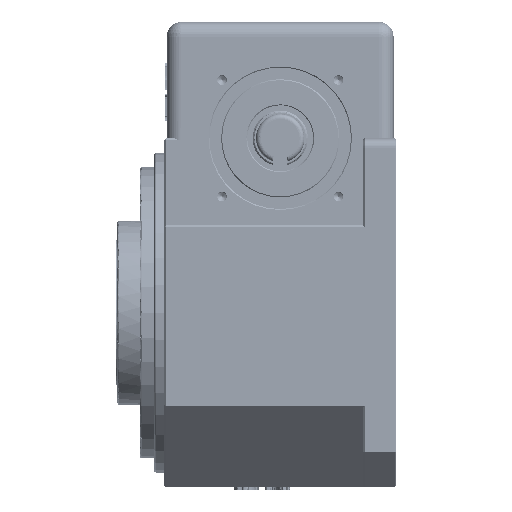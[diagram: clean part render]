
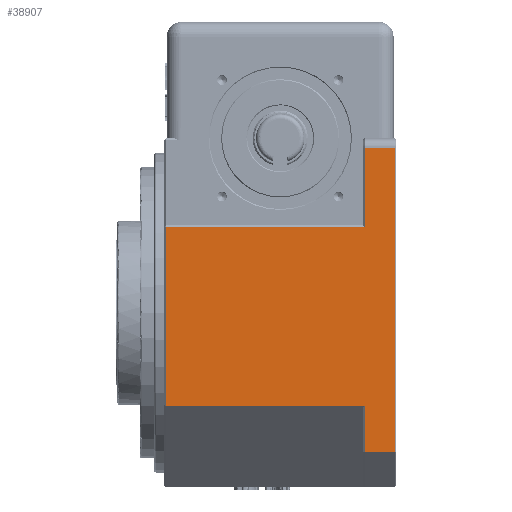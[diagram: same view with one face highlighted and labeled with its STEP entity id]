
A CAD part, left-side view. The second image highlights one B-rep face of the part: STEP entity #38907.
In plain terms, the highlighted planar face has unit normal (-1, 0, 0).
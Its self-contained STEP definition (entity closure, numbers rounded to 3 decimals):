
#120 = CARTESIAN_POINT ( 'NONE',  ( -180., 240., 170. ) ) ;
#4908 = EDGE_CURVE ( 'NONE', #49008, #90645, #31784, .T. ) ;
#9552 = CARTESIAN_POINT ( 'NONE',  ( -180., 238., -96. ) ) ;
#9677 = CARTESIAN_POINT ( 'NONE',  ( -180., 33., 170. ) ) ;
#10310 = LINE ( 'NONE', #9677, #121101 ) ;
#19316 = VERTEX_POINT ( 'NONE', #90777 ) ;
#23511 = CARTESIAN_POINT ( 'NONE',  ( -180., 240., -144. ) ) ;
#24211 = DIRECTION ( 'NONE',  ( 0., 0., 1. ) ) ;
#24481 = EDGE_CURVE ( 'NONE', #19316, #99759, #165315, .T. ) ;
#24828 = ORIENTED_EDGE ( 'NONE', *, *, #84754, .F. ) ;
#31784 = LINE ( 'NONE', #120, #65646 ) ;
#36242 = CARTESIAN_POINT ( 'NONE',  ( -180., 240., -96. ) ) ;
#38737 = CARTESIAN_POINT ( 'NONE',  ( -180., 33., 170. ) ) ;
#38907 = ADVANCED_FACE ( 'NONE', ( #97032 ), #157296, .F. ) ;
#39851 = ORIENTED_EDGE ( 'NONE', *, *, #24481, .T. ) ;
#41863 = VECTOR ( 'NONE', #153433, 1000. ) ;
#43079 = DIRECTION ( 'NONE',  ( 0., -1., 0. ) ) ;
#46243 = VECTOR ( 'NONE', #176679, 1000. ) ;
#46274 = CARTESIAN_POINT ( 'NONE',  ( -180., 2., 170. ) ) ;
#49008 = VERTEX_POINT ( 'NONE', #38737 ) ;
#50557 = EDGE_CURVE ( 'NONE', #69060, #88408, #157194, .T. ) ;
#54777 = CARTESIAN_POINT ( 'NONE',  ( -180., 238., 88. ) ) ;
#56144 = CARTESIAN_POINT ( 'NONE',  ( -180., 240., 170. ) ) ;
#64451 = EDGE_CURVE ( 'NONE', #85601, #69060, #105342, .T. ) ;
#65646 = VECTOR ( 'NONE', #43079, 1000. ) ;
#65780 = CARTESIAN_POINT ( 'NONE',  ( -180., 33., 170. ) ) ;
#68138 = VECTOR ( 'NONE', #89171, 1000. ) ;
#69060 = VERTEX_POINT ( 'NONE', #9552 ) ;
#71415 = VECTOR ( 'NONE', #165720, 1000. ) ;
#75619 = CARTESIAN_POINT ( 'NONE',  ( -180., 240., 88. ) ) ;
#84754 = EDGE_CURVE ( 'NONE', #88408, #115331, #157030, .T. ) ;
#85209 = DIRECTION ( 'NONE',  ( 0., 0., -1. ) ) ;
#85601 = VERTEX_POINT ( 'NONE', #134773 ) ;
#88408 = VERTEX_POINT ( 'NONE', #54777 ) ;
#89171 = DIRECTION ( 'NONE',  ( 0., 0., -1. ) ) ;
#90645 = VERTEX_POINT ( 'NONE', #103334 ) ;
#90777 = CARTESIAN_POINT ( 'NONE',  ( -180., 33., -144. ) ) ;
#92590 = ORIENTED_EDGE ( 'NONE', *, *, #182506, .F. ) ;
#95971 = LINE ( 'NONE', #65780, #177375 ) ;
#97032 = FACE_OUTER_BOUND ( 'NONE', #143795, .T. ) ;
#99759 = VERTEX_POINT ( 'NONE', #145279 ) ;
#103334 = CARTESIAN_POINT ( 'NONE',  ( -180., 2., 170. ) ) ;
#104655 = CARTESIAN_POINT ( 'NONE',  ( -180., 33., 88. ) ) ;
#105342 = LINE ( 'NONE', #36242, #71415 ) ;
#106595 = LINE ( 'NONE', #46274, #68138 ) ;
#109800 = EDGE_CURVE ( 'NONE', #115331, #49008, #95971, .T. ) ;
#115331 = VERTEX_POINT ( 'NONE', #104655 ) ;
#121101 = VECTOR ( 'NONE', #24211, 1000. ) ;
#124563 = DIRECTION ( 'NONE',  ( 0., -1., 0. ) ) ;
#126101 = ORIENTED_EDGE ( 'NONE', *, *, #64451, .F. ) ;
#126306 = ORIENTED_EDGE ( 'NONE', *, *, #50557, .F. ) ;
#126908 = VECTOR ( 'NONE', #124563, 1000. ) ;
#134773 = CARTESIAN_POINT ( 'NONE',  ( -180., 33., -96. ) ) ;
#138846 = CARTESIAN_POINT ( 'NONE',  ( -180., 238., 170. ) ) ;
#141946 = ORIENTED_EDGE ( 'NONE', *, *, #109800, .F. ) ;
#143795 = EDGE_LOOP ( 'NONE', ( #39851, #92590, #146477, #141946, #24828, #126306, #126101, #151493 ) ) ;
#145267 = EDGE_CURVE ( 'NONE', #19316, #85601, #10310, .T. ) ;
#145279 = CARTESIAN_POINT ( 'NONE',  ( -180., 2., -144. ) ) ;
#146477 = ORIENTED_EDGE ( 'NONE', *, *, #4908, .F. ) ;
#151493 = ORIENTED_EDGE ( 'NONE', *, *, #145267, .F. ) ;
#152390 = DIRECTION ( 'NONE',  ( 0., 0., 1. ) ) ;
#153433 = DIRECTION ( 'NONE',  ( 0., 0., 1. ) ) ;
#157030 = LINE ( 'NONE', #75619, #46243 ) ;
#157194 = LINE ( 'NONE', #138846, #41863 ) ;
#157296 = PLANE ( 'NONE',  #171511 ) ;
#165315 = LINE ( 'NONE', #23511, #126908 ) ;
#165720 = DIRECTION ( 'NONE',  ( 0., 1., 0. ) ) ;
#171511 = AXIS2_PLACEMENT_3D ( 'NONE', #56144, #171747, #85209 ) ;
#171747 = DIRECTION ( 'NONE',  ( 1., 0., 0. ) ) ;
#176679 = DIRECTION ( 'NONE',  ( 0., -1., 0. ) ) ;
#177375 = VECTOR ( 'NONE', #152390, 1000. ) ;
#182506 = EDGE_CURVE ( 'NONE', #90645, #99759, #106595, .T. ) ;
